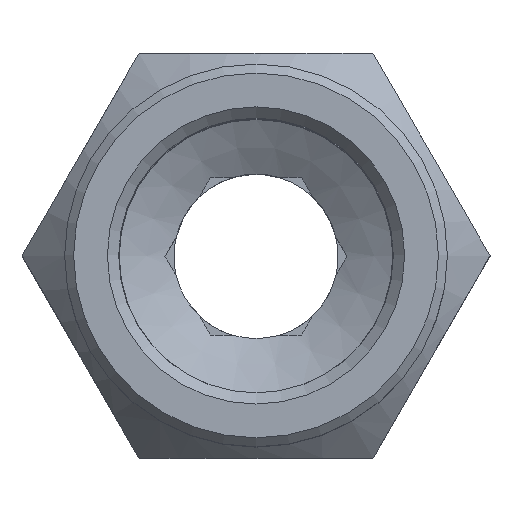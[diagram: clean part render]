
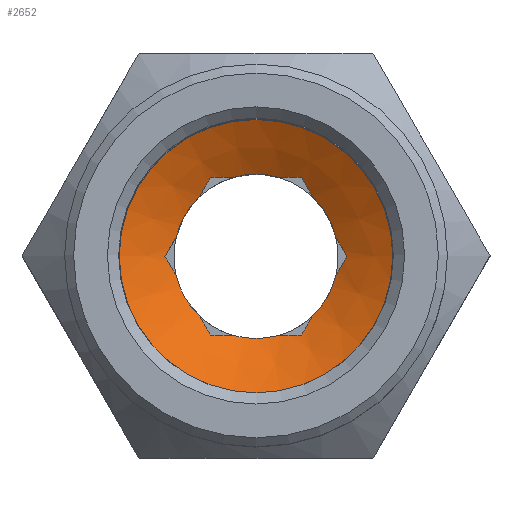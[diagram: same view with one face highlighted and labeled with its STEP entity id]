
A CAD part, top view. The second image highlights one B-rep face of the part: STEP entity #2652.
In plain terms, the highlighted conical face has half-angle 60 degrees and reference radius 6.075 mm.
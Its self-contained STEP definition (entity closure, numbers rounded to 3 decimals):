
#16=HYPERBOLA('',#2576,2.021,3.5);
#17=HYPERBOLA('',#2577,2.021,3.5);
#18=HYPERBOLA('',#2578,2.021,3.5);
#19=HYPERBOLA('',#2579,2.021,3.5);
#20=HYPERBOLA('',#2580,2.021,3.5);
#21=HYPERBOLA('',#2581,2.021,3.5);
#22=HYPERBOLA('',#2582,2.021,3.5);
#23=HYPERBOLA('',#2583,2.021,3.5);
#24=HYPERBOLA('',#2584,2.021,3.5);
#25=HYPERBOLA('',#2585,2.021,3.5);
#26=HYPERBOLA('',#2586,2.021,3.5);
#27=HYPERBOLA('',#2587,2.021,3.5);
#791=CONICAL_SURFACE('',#2575,6.075,60.);
#895=ORIENTED_EDGE('',*,*,#1200,.T.);
#896=ORIENTED_EDGE('',*,*,#1201,.T.);
#897=ORIENTED_EDGE('',*,*,#1202,.T.);
#898=ORIENTED_EDGE('',*,*,#1162,.F.);
#899=ORIENTED_EDGE('',*,*,#1203,.T.);
#900=ORIENTED_EDGE('',*,*,#1204,.T.);
#901=ORIENTED_EDGE('',*,*,#1158,.F.);
#902=ORIENTED_EDGE('',*,*,#1205,.T.);
#903=ORIENTED_EDGE('',*,*,#1206,.T.);
#904=ORIENTED_EDGE('',*,*,#1154,.F.);
#905=ORIENTED_EDGE('',*,*,#1207,.T.);
#906=ORIENTED_EDGE('',*,*,#1208,.T.);
#907=ORIENTED_EDGE('',*,*,#1150,.F.);
#908=ORIENTED_EDGE('',*,*,#1209,.T.);
#909=ORIENTED_EDGE('',*,*,#1210,.T.);
#910=ORIENTED_EDGE('',*,*,#1146,.F.);
#911=ORIENTED_EDGE('',*,*,#1211,.T.);
#912=ORIENTED_EDGE('',*,*,#1212,.T.);
#913=ORIENTED_EDGE('',*,*,#1142,.F.);
#1016=CIRCLE('',#2515,3.65);
#1018=CIRCLE('',#2517,3.65);
#1020=CIRCLE('',#2519,3.65);
#1022=CIRCLE('',#2521,3.65);
#1024=CIRCLE('',#2523,3.65);
#1026=CIRCLE('',#2525,3.65);
#1048=CIRCLE('',#2574,6.075);
#1061=VERTEX_POINT('',#2275);
#1062=VERTEX_POINT('',#2276);
#1065=VERTEX_POINT('',#2282);
#1066=VERTEX_POINT('',#2284);
#1069=VERTEX_POINT('',#2290);
#1070=VERTEX_POINT('',#2292);
#1073=VERTEX_POINT('',#2298);
#1074=VERTEX_POINT('',#2300);
#1077=VERTEX_POINT('',#2306);
#1078=VERTEX_POINT('',#2308);
#1081=VERTEX_POINT('',#2314);
#1082=VERTEX_POINT('',#2316);
#1117=VERTEX_POINT('',#2410);
#1118=VERTEX_POINT('',#2413);
#1119=VERTEX_POINT('',#2416);
#1120=VERTEX_POINT('',#2419);
#1121=VERTEX_POINT('',#2422);
#1122=VERTEX_POINT('',#2425);
#1123=VERTEX_POINT('',#2428);
#1142=EDGE_CURVE('',#1061,#1062,#1016,.T.);
#1146=EDGE_CURVE('',#1065,#1066,#1018,.T.);
#1150=EDGE_CURVE('',#1069,#1070,#1020,.T.);
#1154=EDGE_CURVE('',#1073,#1074,#1022,.T.);
#1158=EDGE_CURVE('',#1077,#1078,#1024,.T.);
#1162=EDGE_CURVE('',#1081,#1082,#1026,.T.);
#1200=EDGE_CURVE('',#1117,#1117,#1048,.T.);
#1201=EDGE_CURVE('',#1061,#1118,#16,.T.);
#1202=EDGE_CURVE('',#1118,#1082,#17,.T.);
#1203=EDGE_CURVE('',#1081,#1119,#18,.T.);
#1204=EDGE_CURVE('',#1119,#1078,#19,.T.);
#1205=EDGE_CURVE('',#1077,#1120,#20,.T.);
#1206=EDGE_CURVE('',#1120,#1074,#21,.T.);
#1207=EDGE_CURVE('',#1073,#1121,#22,.T.);
#1208=EDGE_CURVE('',#1121,#1070,#23,.T.);
#1209=EDGE_CURVE('',#1069,#1122,#24,.T.);
#1210=EDGE_CURVE('',#1122,#1066,#25,.T.);
#1211=EDGE_CURVE('',#1065,#1123,#26,.T.);
#1212=EDGE_CURVE('',#1123,#1062,#27,.T.);
#1300=EDGE_LOOP('',(#895));
#1301=EDGE_LOOP('',(#896,#897,#898,#899,#900,#901,#902,#903,#904,#905,#906,
#907,#908,#909,#910,#911,#912,#913));
#1394=FACE_BOUND('',#1300,.F.);
#1395=FACE_BOUND('',#1301,.F.);
#1992=DIRECTION('',(0.,-1.,0.));
#1993=DIRECTION('',(0.,0.,-3.65));
#1998=DIRECTION('',(0.,-1.,0.));
#1999=DIRECTION('',(0.,0.,-3.65));
#2004=DIRECTION('',(0.,-1.,0.));
#2005=DIRECTION('',(0.,0.,-3.65));
#2010=DIRECTION('',(0.,-1.,0.));
#2011=DIRECTION('',(0.,0.,-3.65));
#2016=DIRECTION('',(0.,-1.,0.));
#2017=DIRECTION('',(0.,0.,-3.65));
#2022=DIRECTION('',(0.,-1.,0.));
#2023=DIRECTION('',(0.,0.,-3.65));
#2130=DIRECTION('',(0.,-1.,0.));
#2131=DIRECTION('',(0.,0.,-6.075));
#2132=DIRECTION('',(0.,1.,0.));
#2133=DIRECTION('',(1.,0.,0.));
#2134=DIRECTION('',(0.,0.,1.));
#2135=DIRECTION('',(0.,1.,0.));
#2136=DIRECTION('',(0.866,0.,0.5));
#2137=DIRECTION('',(0.,1.,0.));
#2138=DIRECTION('',(0.866,0.,0.5));
#2139=DIRECTION('',(0.,1.,0.));
#2140=DIRECTION('',(0.866,0.,-0.5));
#2141=DIRECTION('',(0.,1.,0.));
#2142=DIRECTION('',(0.866,0.,-0.5));
#2143=DIRECTION('',(0.,1.,0.));
#2144=DIRECTION('',(0.,0.,-1.));
#2145=DIRECTION('',(0.,1.,0.));
#2146=DIRECTION('',(0.,0.,-1.));
#2147=DIRECTION('',(0.,1.,0.));
#2148=DIRECTION('',(-0.866,0.,-0.5));
#2149=DIRECTION('',(0.,1.,0.));
#2150=DIRECTION('',(-0.866,0.,-0.5));
#2151=DIRECTION('',(0.,1.,0.));
#2152=DIRECTION('',(-0.866,0.,0.5));
#2153=DIRECTION('',(0.,1.,0.));
#2154=DIRECTION('',(-0.866,0.,0.5));
#2155=DIRECTION('',(0.,1.,0.));
#2156=DIRECTION('',(0.,0.,1.));
#2157=DIRECTION('',(0.,1.,0.));
#2275=CARTESIAN_POINT('',(109.809,96.198,-3.5));
#2276=CARTESIAN_POINT('',(111.88,96.198,-3.5));
#2277=CARTESIAN_POINT('',(110.845,96.198,0.));
#2282=CARTESIAN_POINT('',(113.358,96.198,-2.647));
#2284=CARTESIAN_POINT('',(114.394,96.198,-0.853));
#2285=CARTESIAN_POINT('',(110.845,96.198,0.));
#2290=CARTESIAN_POINT('',(114.394,96.198,0.853));
#2292=CARTESIAN_POINT('',(113.358,96.198,2.647));
#2293=CARTESIAN_POINT('',(110.845,96.198,0.));
#2298=CARTESIAN_POINT('',(111.88,96.198,3.5));
#2300=CARTESIAN_POINT('',(109.809,96.198,3.5));
#2301=CARTESIAN_POINT('',(110.845,96.198,0.));
#2306=CARTESIAN_POINT('',(108.331,96.198,2.647));
#2308=CARTESIAN_POINT('',(107.296,96.198,0.853));
#2309=CARTESIAN_POINT('',(110.845,96.198,0.));
#2314=CARTESIAN_POINT('',(107.296,96.198,-0.853));
#2316=CARTESIAN_POINT('',(108.331,96.198,-2.647));
#2317=CARTESIAN_POINT('',(110.845,96.198,0.));
#2410=CARTESIAN_POINT('',(110.845,97.598,-6.075));
#2411=CARTESIAN_POINT('',(110.845,97.598,0.));
#2412=CARTESIAN_POINT('',(110.845,97.598,0.));
#2413=CARTESIAN_POINT('',(108.824,96.424,-3.5));
#2414=CARTESIAN_POINT('',(110.845,94.091,-3.5));
#2415=CARTESIAN_POINT('',(107.814,94.091,-1.75));
#2416=CARTESIAN_POINT('',(106.803,96.424,0.));
#2417=CARTESIAN_POINT('',(107.814,94.091,-1.75));
#2418=CARTESIAN_POINT('',(107.814,94.091,1.75));
#2419=CARTESIAN_POINT('',(108.824,96.424,3.5));
#2420=CARTESIAN_POINT('',(107.814,94.091,1.75));
#2421=CARTESIAN_POINT('',(110.845,94.091,3.5));
#2422=CARTESIAN_POINT('',(112.865,96.424,3.5));
#2423=CARTESIAN_POINT('',(110.845,94.091,3.5));
#2424=CARTESIAN_POINT('',(113.876,94.091,1.75));
#2425=CARTESIAN_POINT('',(114.886,96.424,0.));
#2426=CARTESIAN_POINT('',(113.876,94.091,1.75));
#2427=CARTESIAN_POINT('',(113.876,94.091,-1.75));
#2428=CARTESIAN_POINT('',(112.865,96.424,-3.5));
#2429=CARTESIAN_POINT('',(113.876,94.091,-1.75));
#2430=CARTESIAN_POINT('',(110.845,94.091,-3.5));
#2515=AXIS2_PLACEMENT_3D('',#2277,#1992,#1993);
#2517=AXIS2_PLACEMENT_3D('',#2285,#1998,#1999);
#2519=AXIS2_PLACEMENT_3D('',#2293,#2004,#2005);
#2521=AXIS2_PLACEMENT_3D('',#2301,#2010,#2011);
#2523=AXIS2_PLACEMENT_3D('',#2309,#2016,#2017);
#2525=AXIS2_PLACEMENT_3D('',#2317,#2022,#2023);
#2574=AXIS2_PLACEMENT_3D('',#2411,#2130,#2131);
#2575=AXIS2_PLACEMENT_3D('',#2412,#2132,#2133);
#2576=AXIS2_PLACEMENT_3D('',#2414,#2134,#2135);
#2577=AXIS2_PLACEMENT_3D('',#2415,#2136,#2137);
#2578=AXIS2_PLACEMENT_3D('',#2417,#2138,#2139);
#2579=AXIS2_PLACEMENT_3D('',#2418,#2140,#2141);
#2580=AXIS2_PLACEMENT_3D('',#2420,#2142,#2143);
#2581=AXIS2_PLACEMENT_3D('',#2421,#2144,#2145);
#2582=AXIS2_PLACEMENT_3D('',#2423,#2146,#2147);
#2583=AXIS2_PLACEMENT_3D('',#2424,#2148,#2149);
#2584=AXIS2_PLACEMENT_3D('',#2426,#2150,#2151);
#2585=AXIS2_PLACEMENT_3D('',#2427,#2152,#2153);
#2586=AXIS2_PLACEMENT_3D('',#2429,#2154,#2155);
#2587=AXIS2_PLACEMENT_3D('',#2430,#2156,#2157);
#2652=ADVANCED_FACE('',(#1394,#1395),#791,.F.);
